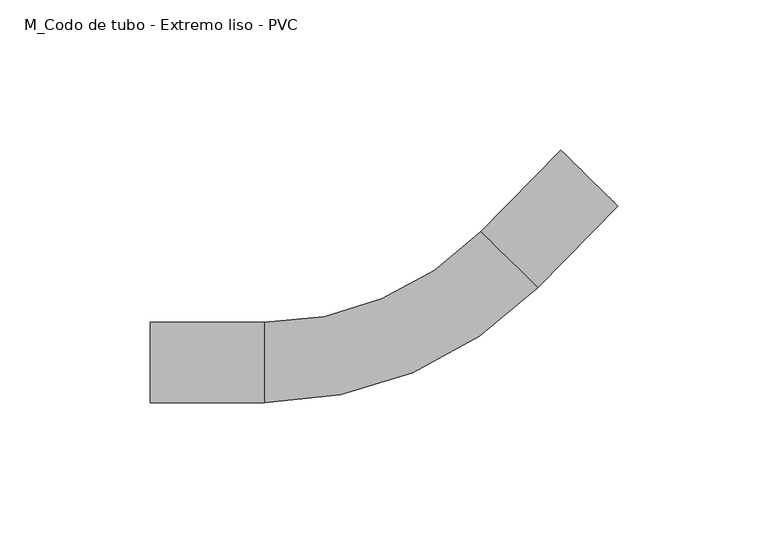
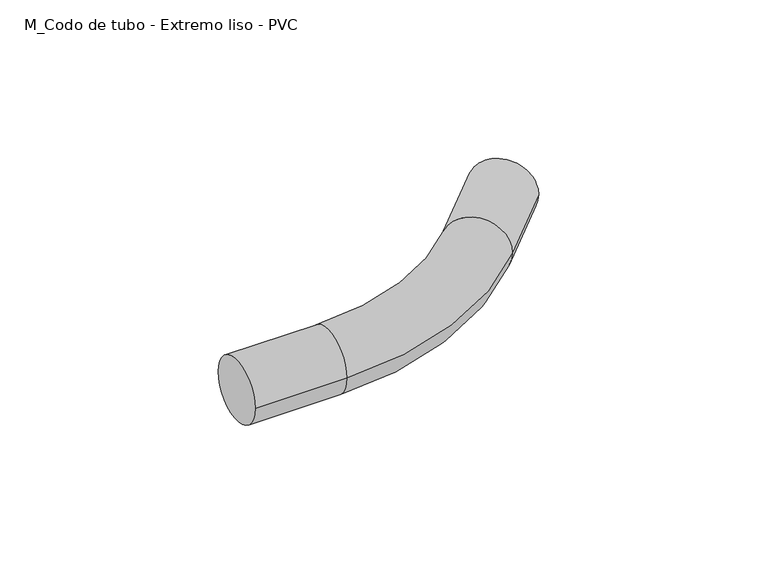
"""IFC4 building model written with IfcOpenShell, lengths in millimetres: cable carrier fitting geometry, M_Codo de tubo - Extremo liso - PVC : CODO ILUMINACION."""

from ifc_helpers import new_model, si_unit, point, frame, origin, place, context, project, spatial, circle_curve, ellipse_curve, trimmed, source, transform, mapped, element, save
from ifc_brep_helpers import plane_surface, cylinder_surface, revolved_surface, advanced_brep


def m_codo_de_tubo_extremo_liso_pvc_4eea1a97(model_context):
    return source(origin(), model_context, "Body", "AdvancedBrep", [
        advanced_brep(
        [(-86.0745735, -13.335, 0.0), (-86.0745735, 13.335, 0.0), (-47.9745735, -13.335, 0.0), (-47.9745735, 13.335, 0.0), (24.0857097, 43.5805061, 0.0), (43.1205015, 24.8998851, 0.0), (69.8071029, 52.0924448, 0.0), (50.7723112, 70.7730658, 0.0)],
        [
            (0, 1, circle_curve(frame((-86.0745735, 0.0, 0.0), z_axis=(-1.0, 0.0, 0.0), x_axis=(0.0, 1.0, 0.0)), 13.335)),
            (1, 0, circle_curve(frame((-86.0745735, 0.0, 0.0), z_axis=(-1.0, 0.0, 0.0), x_axis=(0.0, 1.0, 0.0)), 13.335)),
            (0, 2),
            (2, 3, circle_curve(frame((-47.9745735, 0.0, 0.0), z_axis=(-1.0, 0.0, 0.0), x_axis=(0.0, 1.0, 0.0)), 13.335)),
            (3, 1),
            (3, 2, circle_curve(frame((-47.9745735, 0.0, 0.0), z_axis=(-1.0, 0.0, 0.0), x_axis=(0.0, 1.0, 0.0)), 13.335)),
            (4, 3, circle_curve(frame((-47.9745735, 114.3, 0.0), z_axis=(0.0, 0.0, -1.0), x_axis=(0.0, -1.0, 0.0)), 100.965)),
            (2, 5, circle_curve(frame((-47.9745735, 114.3, 0.0), z_axis=(0.0, 0.0, 1.0), x_axis=(0.0, -1.0, 0.0)), 127.635)),
            (5, 4, circle_curve(frame((33.6031056, 34.2401956, 0.0), z_axis=(-0.700435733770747, -0.7137154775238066, 0.0), x_axis=(-0.7137154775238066, 0.700435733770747, 0.0)), 13.335)),
            (4, 5, circle_curve(frame((33.6031056, 34.2401956, 0.0), z_axis=(-0.700435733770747, -0.7137154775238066, 0.0), x_axis=(-0.7137154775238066, 0.700435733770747, 0.0)), 13.335)),
            (6, 7, circle_curve(frame((60.289707, 61.4327553, 0.0), z_axis=(0.700435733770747, 0.7137154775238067, 0.0), x_axis=(-0.7137154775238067, 0.700435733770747, 0.0)), 13.335)),
            (7, 6, circle_curve(frame((60.289707, 61.4327553, 0.0), z_axis=(0.700435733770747, 0.7137154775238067, 0.0), x_axis=(-0.7137154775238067, 0.700435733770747, 0.0)), 13.335)),
            (5, 6),
            (7, 4),
        ],
        [
            plane_surface(frame((-86.0745735, 0.0, 0.0), z_axis=(-1.0, 0.0, 0.0), x_axis=(0.0, 0.0, 1.0))),
            cylinder_surface(frame((-86.0745735, 0.0, 0.0), z_axis=(-1.0, 0.0, 0.0), x_axis=(0.0, 1.0, 0.0)), 13.335),
            revolved_surface(trimmed(ellipse_curve(frame((-47.9745735, 0.0, 0.0), z_axis=(-1.0, 0.0, 0.0), x_axis=(0.0, 1.0, 0.0)), 13.335, 13.335), [point((-47.9745735, -13.335, 0.0))], [point((-47.9745735, 13.335, 0.0))], True, "CARTESIAN"), (-47.9745735, 114.3, 0.0), (0.0, 0.0, 1.0)),
            revolved_surface(trimmed(ellipse_curve(frame((-47.9745735, 0.0, 0.0), z_axis=(-1.0, 0.0, 0.0), x_axis=(0.0, 1.0, 0.0)), 13.335, 13.335), [point((-47.9745735, 13.335, 0.0))], [point((-47.9745735, -13.335, 0.0))], True, "CARTESIAN"), (-47.9745735, 114.3, 0.0), (0.0, 0.0, 1.0)),
            plane_surface(frame((60.289707, 61.4327553, 0.0), z_axis=(0.7004357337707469, 0.7137154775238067, 0.0), x_axis=(0.0, 0.0, 1.0))),
            cylinder_surface(frame((33.6031056, 34.2401956, 0.0), z_axis=(-0.700435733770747, -0.7137154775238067, 0.0), x_axis=(-0.7137154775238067, 0.700435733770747, 0.0)), 13.335),
        ],
        [
            (0, [[1, 2]]),
            (1, [[-1, 3, 4, 5]]),
            (1, [[-2, -5, 6, -3]]),
            (2, [[7, -4, 8, 9]]),
            (3, [[-8, -6, -7, 10]]),
            (4, [[11, 12]]),
            (5, [[-9, 13, -12, 14]]),
            (5, [[-10, -14, -11, -13]]),
        ],
    ),
    ])


if __name__ == "__main__":
    model = new_model("IFC4")
    model_context = context("Model", 3, world=origin())
    ifc_project = project(units=[si_unit("LENGTHUNIT", "METRE", prefix="MILLI")], contexts=[model_context])
    site = spatial("IfcSite", under=ifc_project)
    building = spatial("IfcBuilding", under=site)
    placement = place(None, origin())
    m_codo_de_tubo_extremo_liso_pvc_shape = m_codo_de_tubo_extremo_liso_pvc_4eea1a97(model_context)
    element("IfcCableCarrierFitting", 1, ObjectType="M_Codo de tubo - Extremo liso - PVC : CODO ILUMINACION", at=placement, inside=building, context=model_context, shape_type="MappedRepresentation", body=[
        mapped(m_codo_de_tubo_extremo_liso_pvc_shape, transform((0.0, 0.0, 0.0), x_axis=(1.0, 0.0, 0.0), y_axis=(0.0, 1.0, 0.0), z_axis=(0.0, 0.0, 1.0))),
    ])
    save(model, "model.ifc")
